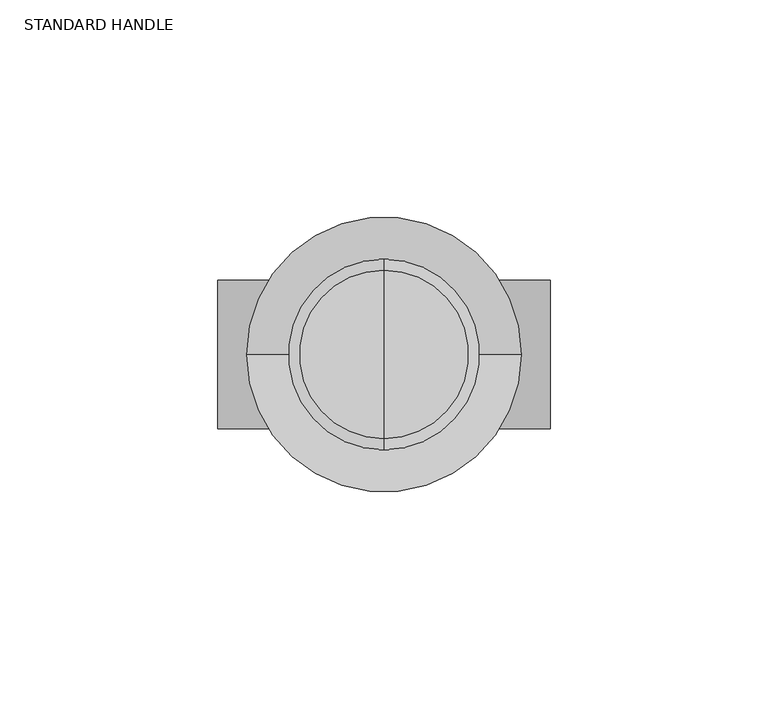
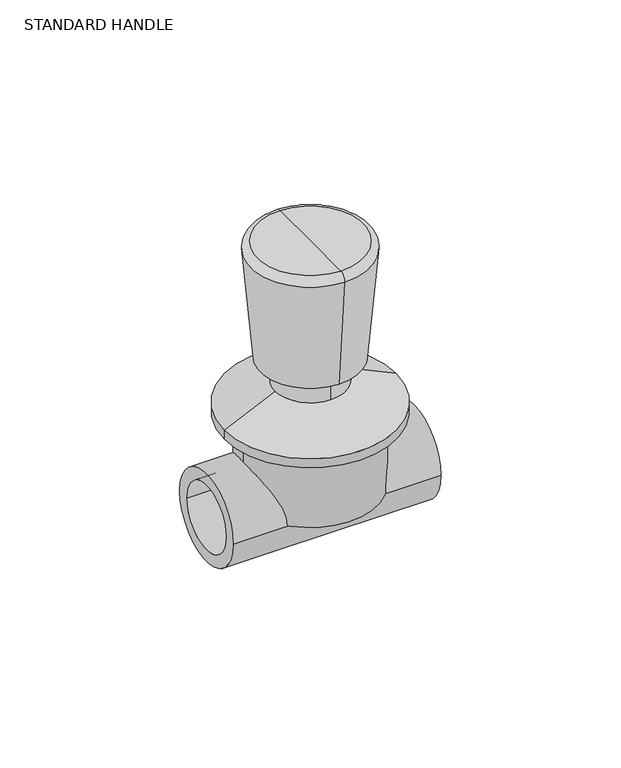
"""IFC4 building model written with IfcOpenShell, lengths in millimetres: valve geometry, Aquatherm - Concealed Valve Standard With Handle : STANDARD HANDLE."""

from ifc_helpers import new_model, si_unit, point, frame, origin, origin_2d, place, context, project, spatial, polyline, circle_curve, ellipse_curve, trimmed, segment, composite_curve, outline, extrude, source, transform, mapped, element, save
from ifc_brep_helpers import plane_surface, cylinder_surface, revolved_surface, advanced_brep


def standard_handle_e093400f(model_context):
    return source(origin(), model_context, "Body", "SolidModel", [
        advanced_brep(
        [(0.0, 19.3406564, 93.98), (0.0, -19.3406564, 93.98), (0.0, 0.0, 93.98), (0.0, 21.870991, 91.2186244), (0.0, -21.870991, 91.2186244), (0.0, 18.2125979, 49.403), (0.0, -18.2125979, 49.403), (0.0, 12.9442633, 49.403), (0.0, -12.9442633, 49.403), (0.0, 12.9442633, 40.193595), (0.0, -12.9442633, 40.193595), (0.0, 0.0, 40.193595)],
        [
            (0, 1, circle_curve(frame((0.0, 0.0, 93.98), z_axis=(0.0, 0.0, 1.0), x_axis=(0.0, -1.0, 0.0)), 19.3406564)),
            (1, 2),
            (2, 0),
            (1, 0, circle_curve(frame((0.0, 0.0, 93.98), z_axis=(0.0, 0.0, 1.0), x_axis=(0.0, -1.0, 0.0)), 19.3406564)),
            (3, 4, circle_curve(frame((0.0, 0.0, 91.2186244), z_axis=(0.0, 0.0, 1.0), x_axis=(0.0, -1.0, 0.0)), 21.870991)),
            (4, 1, circle_curve(frame((0.0, -19.3406564, 91.44), z_axis=(-1.0, 0.0, 0.0), x_axis=(0.0, -1.0, 0.0)), 2.54)),
            (0, 3, circle_curve(frame((0.0, 19.3406564, 91.44), z_axis=(-1.0, 0.0, 0.0), x_axis=(0.0, 1.0, 0.0)), 2.54)),
            (4, 3, circle_curve(frame((0.0, 0.0, 91.2186244), z_axis=(0.0, 0.0, 1.0), x_axis=(0.0, -1.0, 0.0)), 21.870991)),
            (5, 6, circle_curve(frame((0.0, 0.0, 49.403), z_axis=(0.0, 0.0, 1.0), x_axis=(0.0, -1.0, 0.0)), 18.2125979)),
            (6, 4),
            (3, 5),
            (6, 5, circle_curve(frame((0.0, 0.0, 49.403), z_axis=(0.0, 0.0, 1.0), x_axis=(0.0, -1.0, 0.0)), 18.2125979)),
            (7, 8, circle_curve(frame((0.0, 0.0, 49.403), z_axis=(0.0, 0.0, 1.0), x_axis=(0.0, -1.0, 0.0)), 12.9442633)),
            (8, 6),
            (5, 7),
            (8, 7, circle_curve(frame((0.0, 0.0, 49.403), z_axis=(0.0, 0.0, 1.0), x_axis=(0.0, -1.0, 0.0)), 12.9442633)),
            (9, 10, circle_curve(frame((0.0, 0.0, 40.193595), z_axis=(0.0, 0.0, 1.0), x_axis=(0.0, -1.0, 0.0)), 12.9442633)),
            (10, 8),
            (7, 9),
            (10, 9, circle_curve(frame((0.0, 0.0, 40.193595), z_axis=(0.0, 0.0, 1.0), x_axis=(0.0, -1.0, 0.0)), 12.9442633)),
            (11, 10),
            (9, 11),
        ],
        [
            plane_surface(frame((0.0, 0.0, 93.98), z_axis=(0.0, 0.0, 1.0), x_axis=(0.0, -1.0, 0.0))),
            revolved_surface(trimmed(ellipse_curve(frame((0.0, -19.3406564, 91.44), z_axis=(1.0, 0.0, 0.0), x_axis=(0.0, -1.0, 0.0)), 2.54, 2.54), [point((0.0, -19.3406564, 93.98))], [point((0.0, -21.870991, 91.2186244))], True, "CARTESIAN"), (0.0, 0.0, 116.5596097), (0.0, 0.0, -1.0)),
            revolved_surface(polyline([(0.0, -21.870991, 91.2186244), (0.0, -18.2125979, 49.403)]), (0.0, 0.0, 116.5596097), (0.0, 0.0, -1.0)),
            plane_surface(frame((0.0, 0.0, 49.403), z_axis=(0.0, 0.0, -1.0), x_axis=(0.0, -1.0, 0.0))),
            cylinder_surface(frame((0.0, 0.0, 116.5596097), z_axis=(0.0, 0.0, -1.0), x_axis=(0.0, -1.0, 0.0)), 12.9442633),
            plane_surface(frame((0.0, 0.0, 40.193595), z_axis=(0.0, 0.0, -1.0), x_axis=(0.0, -1.0, 0.0))),
        ],
        [
            (0, [[1, 2, 3]]),
            (0, [[4, -3, -2]]),
            (1, [[5, 6, -1, 7]]),
            (1, [[8, -7, -4, -6]]),
            (2, [[9, 10, -5, 11]]),
            (2, [[12, -11, -8, -10]]),
            (3, [[13, 14, -9, 15]]),
            (3, [[16, -15, -12, -14]]),
            (4, [[17, 18, -13, 19]]),
            (4, [[20, -19, -16, -18]]),
            (5, [[21, -17, 22]]),
            (5, [[-22, -20, -21]]),
        ],
    ),
        advanced_brep(
        [(-12.827, 0.0, 40.193595), (12.827, 0.0, 40.193595), (-31.496, 0.0, 31.4917667), (31.496, 0.0, 31.4917667)],
        [
            (0, 1, circle_curve(frame((0.0, 0.0, 40.193595), z_axis=(0.0, 0.0, 1.0), x_axis=(-1.0, 0.0, 0.0)), 12.827)),
            (1, 0, circle_curve(frame((0.0, 0.0, 40.193595), z_axis=(0.0, 0.0, 1.0), x_axis=(1.0, 0.0, 0.0)), 12.827)),
            (2, 3, circle_curve(frame((0.0, 0.0, 31.4917667), z_axis=(0.0, 0.0, -1.0), x_axis=(1.0, 0.0, 0.0)), 31.496)),
            (3, 2, circle_curve(frame((0.0, 0.0, 31.4917667), z_axis=(0.0, 0.0, -1.0), x_axis=(-1.0, 0.0, 0.0)), 31.496)),
            (3, 1),
            (0, 2),
        ],
        [
            plane_surface(frame((0.0, 0.0, 40.193595), z_axis=(0.0, 0.0, 1.0), x_axis=(0.0, -1.0, 0.0))),
            plane_surface(frame((0.0, 0.0, 31.4917667), z_axis=(0.0, 0.0, -1.0), x_axis=(0.0, -1.0, 0.0))),
            revolved_surface(polyline([(-12.82700000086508, 0.0, 40.193595), (-31.496, 0.0, 31.4917667)]), (0.0, 0.0, 46.1724022), (0.0, 0.0, -1.0)),
            revolved_surface(polyline([(12.82700000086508, 0.0, 40.193595), (31.496, 0.0, 31.4917667)]), (0.0, 0.0, 46.1724022), (0.0, 0.0, -1.0)),
        ],
        [
            (0, [[1, 2]]),
            (1, [[3, 4]]),
            (2, [[-4, 5, -1, 6]]),
            (3, [[-3, -6, -2, -5]]),
        ],
    ),
        extrude(outline(composite_curve([segment(trimmed(circle_curve(origin_2d(), 31.496), [point((-31.496, 0.0))], [point((31.496, 0.0))], False, "CARTESIAN"), True, "CONTINUOUS"), segment(trimmed(circle_curve(origin_2d(), 31.496), [point((31.496, 0.0))], [point((-31.496, 0.0))], False, "CARTESIAN"), True, "CONTINUOUS")], self_intersect=False)), frame((0.0, 0.0, 27.94), z_axis=(0.0, 0.0, 1.0), x_axis=(1.0, 0.0, 0.0)), (0.0, 0.0, 1.0), 3.5517667),
        extrude(outline(composite_curve([segment(trimmed(circle_curve(origin_2d(), 12.827), [point((0.0, 12.827))], [point((0.0, -12.827))], False, "CARTESIAN"), True, "CONTINUOUS"), segment(trimmed(circle_curve(origin_2d(), 12.827), [point((0.0, -12.827))], [point((0.0, 12.827))], False, "CARTESIAN"), True, "CONTINUOUS")], self_intersect=False)), frame((0.0, 0.0, 24.638), z_axis=(0.0, 0.0, 1.0), x_axis=(1.0, 0.0, 0.0)), (0.0, 0.0, 1.0), 3.302),
        advanced_brep(
        [(0.0, 0.0, 24.638), (24.638, 0.0, 24.638), (-24.638, 0.0, 24.638), (-24.638, 0.0, 0.0), (24.638, 0.0, 0.0), (0.0, 0.0, 0.0)],
        [
            (0, 1),
            (1, 2, circle_curve(frame((0.0, 0.0, 24.638), z_axis=(0.0, 0.0, 1.0), x_axis=(1.0, 0.0, 0.0)), 24.638)),
            (2, 0),
            (2, 1, circle_curve(frame((0.0, 0.0, 24.638), z_axis=(0.0, 0.0, 1.0), x_axis=(1.0, 0.0, 0.0)), 24.638)),
            (3, 4, circle_curve(frame((0.0, 0.0, 0.0), z_axis=(0.0, 0.0, -1.0), x_axis=(1.0, 0.0, 0.0)), 24.638)),
            (4, 5),
            (5, 3),
            (4, 3, circle_curve(frame((0.0, 0.0, 0.0), z_axis=(0.0, 0.0, -1.0), x_axis=(1.0, 0.0, 0.0)), 24.638)),
            (1, 4),
            (3, 2),
        ],
        [
            plane_surface(frame((0.0, 0.0, 24.638), z_axis=(0.0, 0.0, 1.0), x_axis=(1.0, 0.0, 0.0))),
            plane_surface(frame((0.0, 0.0, 0.0), z_axis=(0.0, 0.0, -1.0), x_axis=(1.0, 0.0, 0.0))),
            cylinder_surface(frame((0.0, 0.0, 29.5374888), z_axis=(0.0, 0.0, 1.0), x_axis=(1.0, 0.0, 0.0)), 24.638),
        ],
        [
            (0, [[1, 2, 3]]),
            (0, [[-3, 4, -1]]),
            (1, [[5, 6, 7]]),
            (1, [[8, -7, -6]]),
            (2, [[-2, 9, -5, 10]]),
            (2, [[-4, -10, -8, -9]]),
        ],
    ),
        extrude(outline(composite_curve([segment(trimmed(circle_curve(origin_2d(), 17.018), [point((-17.018, 0.0))], [point((17.018, 0.0))], False, "CARTESIAN"), True, "CONTINUOUS"), segment(trimmed(circle_curve(origin_2d(), 17.018), [point((17.018, 0.0))], [point((-17.018, 0.0))], False, "CARTESIAN"), True, "CONTINUOUS")], self_intersect=False), holes=[composite_curve([segment(trimmed(circle_curve(origin_2d(), 12.446), [point((-12.446, 0.0))], [point((12.446, 0.0))], True, "CARTESIAN"), True, "CONTINUOUS"), segment(trimmed(circle_curve(origin_2d(), 12.446), [point((12.446, 0.0))], [point((-12.446, 0.0))], True, "CARTESIAN"), True, "CONTINUOUS")], self_intersect=False)]), frame((-38.1, 0.0, 0.0), z_axis=(1.0, 0.0, 0.0), x_axis=(0.0, 1.0, 0.0)), (0.0, 0.0, 1.0), 76.2),
    ])


if __name__ == "__main__":
    model = new_model("IFC4")
    model_context = context("Model", 3, world=origin())
    ifc_project = project(units=[si_unit("LENGTHUNIT", "METRE", prefix="MILLI")], contexts=[model_context])
    site = spatial("IfcSite", under=ifc_project)
    building = spatial("IfcBuilding", under=site)
    placement = place(None, origin())
    standard_handle_shape = standard_handle_e093400f(model_context)
    element("IfcValve", 1, ObjectType="Aquatherm - Concealed Valve Standard With Handle : STANDARD HANDLE", at=placement, inside=building, context=model_context, shape_type="MappedRepresentation", body=[
        mapped(standard_handle_shape, transform((0.0, 0.0, 0.0), x_axis=(1.0, 0.0, 0.0), y_axis=(0.0, 1.0, 0.0), z_axis=(0.0, 0.0, 1.0))),
    ])
    save(model, "model.ifc")
